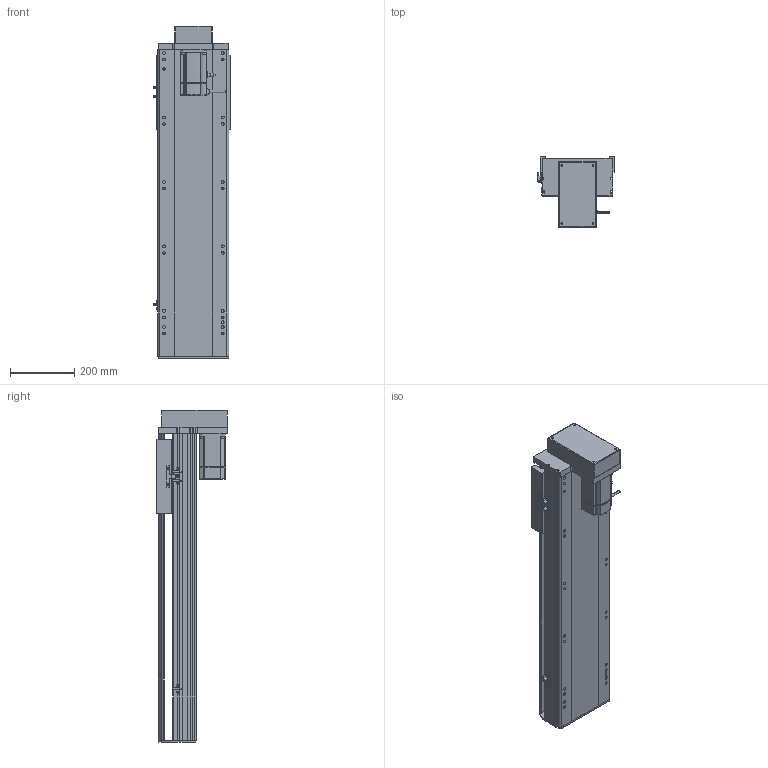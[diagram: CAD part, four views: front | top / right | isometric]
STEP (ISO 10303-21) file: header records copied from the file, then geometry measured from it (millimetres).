
FILE_DESCRIPTION (( 'STEP AP214' ), '1' );
FILE_NAME ('RTH22-XX-650-M-M75-C4.STEP', '2025-10-24T11:08:53', ( 'Microsoft' ), ( 'Microsoft' ), 'SwSTEP 2.0', 'SolidWorks 2018', '' );
FILE_SCHEMA (( 'AUTOMOTIVE_DESIGN' ));
Length unit declared in the file: millimetre
Products named in the file (10): N_750W萇儂^RTH22-XX-XX-M-M75-C4; N_RTH22-M-007奻裔^RTH22-XX-XX-M-M75-C4; N_RTH22-GY-013外置感应片^RTH22-XX-XX-M-M75-C4; N_RTH22-M-018裔赽^RTH22-XX-XX-M-M75-C4; RTH22-XX-650-M-M75-C4; N_RTH22-L-004-SFS25賑釱^RTH22-XX-XX-M-M75-C4; N_OMRON EE-SX672 传感器^RTH22-XX-XX-M-M75-C4; N_RTH22-L-011菁釱^RTH22-XX-XX-M-M75-C4; N_RTH22-GY-001耜裔^RTH22-XX-XX-M-M75-C4; N_RTH22-M-008-P75萇儂啣^RTH22-XX-XX-M-M75-C4
Assembly tree (11 placements, depth 2):
  RTH22-XX-650-M-M75-C4
    N_RTH22-L-011菁釱^RTH22-XX-XX-M-M75-C4
    N_RTH22-GY-001耜裔^RTH22-XX-XX-M-M75-C4
    N_750W萇儂^RTH22-XX-XX-M-M75-C4
    N_RTH22-M-008-P75萇儂啣^RTH22-XX-XX-M-M75-C4
    N_RTH22-M-007奻裔^RTH22-XX-XX-M-M75-C4
    N_RTH22-M-018裔赽^RTH22-XX-XX-M-M75-C4
    N_OMRON EE-SX672 传感器^RTH22-XX-XX-M-M75-C4  x3
    N_RTH22-GY-013外置感应片^RTH22-XX-XX-M-M75-C4
    N_RTH22-L-004-SFS25賑釱^RTH22-XX-XX-M-M75-C4
Bounding box: 238.5 x 218.5 x 1029.7 mm (x, y, z)
Volume: 14745076.3 mm3; surface area: 1662523.6 mm2
Topology: 11 solids, 11 shells, 1605 faces, 4380 edges, 2825 vertices
Faces by surface type: plane 805, cylinder 463, bspline 279, cone 58
Entity records: 40341 total; most frequent: CARTESIAN_POINT 12216, ORIENTED_EDGE 5736, DIRECTION 5402, EDGE_CURVE 2868, VERTEX_POINT 1861, AXIS2_PLACEMENT_3D 1807, VECTOR 1788, LINE 1788
